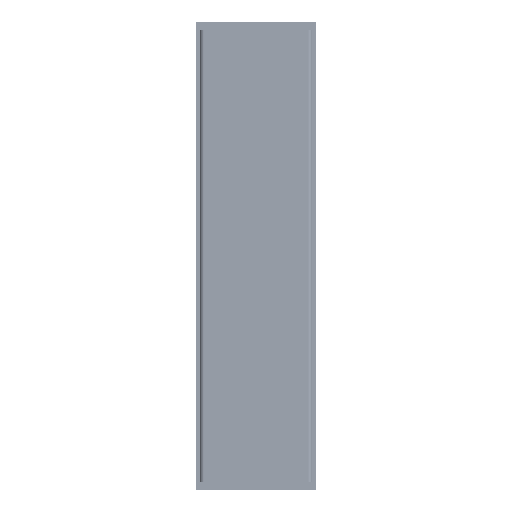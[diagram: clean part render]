
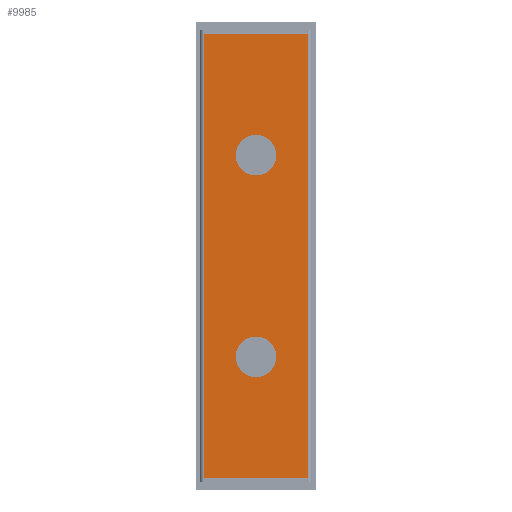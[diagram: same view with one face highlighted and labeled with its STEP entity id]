
A CAD part, front view. The second image highlights one B-rep face of the part: STEP entity #9985.
In plain terms, the highlighted planar face has unit normal (0, -1, 0).
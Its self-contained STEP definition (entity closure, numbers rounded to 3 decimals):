
#8218=DIRECTION('',(1.,0.,0.));
#8219=VECTOR('',#8218,72.);
#8220=CARTESIAN_POINT('',(7662.499,4612.843,154.));
#8221=LINE('',#8220,#8219);
#8222=DIRECTION('',(-1.,0.,0.));
#8223=VECTOR('',#8222,72.);
#8224=CARTESIAN_POINT('',(7734.499,4612.843,-154.));
#8225=LINE('',#8224,#8223);
#8226=DIRECTION('',(0.,0.,1.));
#8227=VECTOR('',#8226,308.);
#8228=CARTESIAN_POINT('',(7662.499,4612.843,-154.));
#8229=LINE('',#8228,#8227);
#8230=CARTESIAN_POINT('',(7698.499,4612.843,70.));
#8231=DIRECTION('',(0.,-1.,0.));
#8232=DIRECTION('',(0.,0.,-1.));
#8233=AXIS2_PLACEMENT_3D('',#8230,#8231,#8232);
#8235=CARTESIAN_POINT('',(7698.499,4612.843,70.));
#8236=DIRECTION('',(0.,-1.,0.));
#8237=DIRECTION('',(0.,0.,1.));
#8238=AXIS2_PLACEMENT_3D('',#8235,#8236,#8237);
#8240=CARTESIAN_POINT('',(7698.499,4612.843,-70.));
#8241=DIRECTION('',(0.,-1.,0.));
#8242=DIRECTION('',(0.,0.,-1.));
#8243=AXIS2_PLACEMENT_3D('',#8240,#8241,#8242);
#8245=CARTESIAN_POINT('',(7698.499,4612.843,-70.));
#8246=DIRECTION('',(0.,-1.,0.));
#8247=DIRECTION('',(0.,0.,1.));
#8248=AXIS2_PLACEMENT_3D('',#8245,#8246,#8247);
#8250=DIRECTION('',(0.,0.,1.));
#8251=VECTOR('',#8250,308.);
#8252=CARTESIAN_POINT('',(7734.499,4612.843,-154.));
#8253=LINE('',#8252,#8251);
#8746=CARTESIAN_POINT('',(7698.499,4612.843,55.9));
#8747=CARTESIAN_POINT('',(7698.499,4612.843,84.1));
#8748=VERTEX_POINT('',#8746);
#8749=VERTEX_POINT('',#8747);
#8750=CARTESIAN_POINT('',(7698.499,4612.843,-84.1));
#8751=CARTESIAN_POINT('',(7698.499,4612.843,-55.9));
#8752=VERTEX_POINT('',#8750);
#8753=VERTEX_POINT('',#8751);
#8787=CARTESIAN_POINT('',(7662.499,4612.843,-154.));
#8789=VERTEX_POINT('',#8787);
#8790=CARTESIAN_POINT('',(7734.499,4612.843,-154.));
#8792=VERTEX_POINT('',#8790);
#8843=CARTESIAN_POINT('',(7662.499,4612.843,154.));
#8845=VERTEX_POINT('',#8843);
#8846=CARTESIAN_POINT('',(7734.499,4612.843,154.));
#8848=VERTEX_POINT('',#8846);
#9961=CARTESIAN_POINT('',(7662.499,4612.843,-509.));
#9962=DIRECTION('',(0.,-1.,0.));
#9963=DIRECTION('',(1.,0.,0.));
#9964=AXIS2_PLACEMENT_3D('',#9961,#9962,#9963);
#9965=PLANE('',#9964);
#9966=ORIENTED_EDGE('',*,*,#9464,.T.);
#9968=ORIENTED_EDGE('',*,*,#9967,.F.);
#9969=ORIENTED_EDGE('',*,*,#9346,.T.);
#9970=ORIENTED_EDGE('',*,*,#9956,.T.);
#9971=EDGE_LOOP('',(#9966,#9968,#9969,#9970));
#9972=FACE_OUTER_BOUND('',#9971,.F.);
#9974=ORIENTED_EDGE('',*,*,#9973,.T.);
#9976=ORIENTED_EDGE('',*,*,#9975,.T.);
#9977=EDGE_LOOP('',(#9974,#9976));
#9978=FACE_BOUND('',#9977,.F.);
#9980=ORIENTED_EDGE('',*,*,#9979,.T.);
#9982=ORIENTED_EDGE('',*,*,#9981,.T.);
#9983=EDGE_LOOP('',(#9980,#9982));
#9984=FACE_BOUND('',#9983,.F.);
#9985=ADVANCED_FACE('',(#9972,#9978,#9984),#9965,.T.);
#8234=CIRCLE('',#8233,14.1);
#8239=CIRCLE('',#8238,14.1);
#8244=CIRCLE('',#8243,14.1);
#8249=CIRCLE('',#8248,14.1);
#9346=EDGE_CURVE('',#8792,#8789,#8225,.T.);
#9464=EDGE_CURVE('',#8845,#8848,#8221,.T.);
#9956=EDGE_CURVE('',#8789,#8845,#8229,.T.);
#9967=EDGE_CURVE('',#8792,#8848,#8253,.T.);
#9973=EDGE_CURVE('',#8748,#8749,#8234,.T.);
#9975=EDGE_CURVE('',#8749,#8748,#8239,.T.);
#9979=EDGE_CURVE('',#8752,#8753,#8244,.T.);
#9981=EDGE_CURVE('',#8753,#8752,#8249,.T.);
